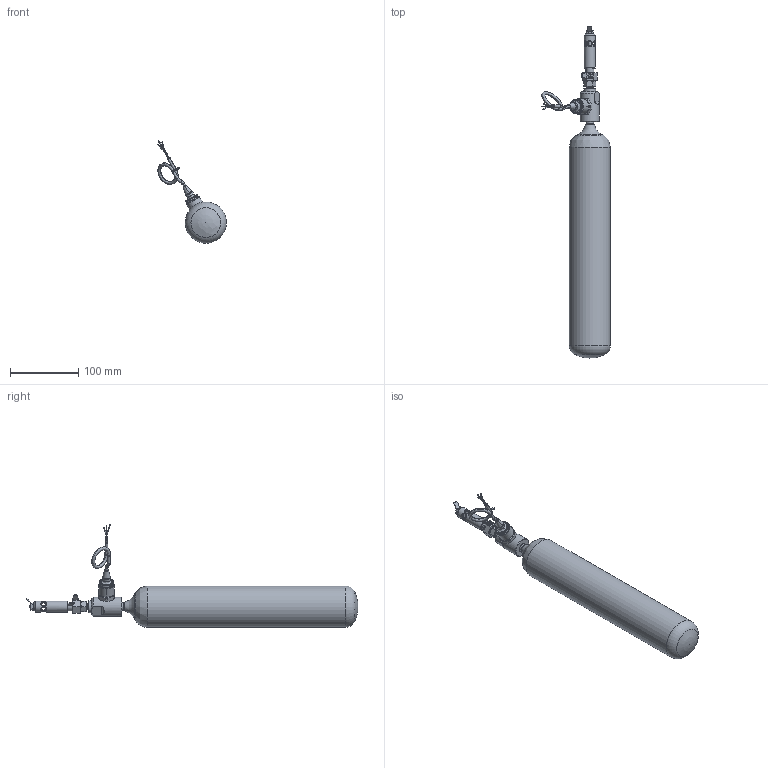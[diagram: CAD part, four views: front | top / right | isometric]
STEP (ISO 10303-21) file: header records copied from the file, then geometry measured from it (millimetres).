
FILE_DESCRIPTION(/* description */ (''),/* implementation_level */ '2;1');
FILE_NAME(/* name */ '40-057-20-31-15 - S-AMFE & R-AMFE - cylinder size 5 and pressure sensor (cable).stp',/* time_stamp */ '2025-03-26T16:19:58+01:00',/* author */ ('ASc'),/* organization */ (''),/* preprocessor_version */ 'ST-DEVELOPER v19.2',/* originating_system */ 'Autodesk Inventor 2023',/* authorisation */ '');
FILE_SCHEMA (('AUTOMOTIVE_DESIGN { 1 0 10303 214 3 1 1 }'));
Length unit declared in the file: millimetre
Products named in the file (1): 40-057-20-31-15_Vereinfachen_1
Bounding box: 100.75 x 485.41 x 149.84 mm (x, y, z)
Volume: 969098.3 mm3; surface area: 82041.8 mm2
Topology: 1 solids, 1 shells, 286 faces, 790 edges, 513 vertices
Faces by surface type: bspline 116, plane 106, cylinder 31, cone 29, torus 4
Full cylindrical faces by diameter (mm): 2.9 x1, 5.7 x2, 6.5 x6, 9.4 x1, 11 x1, 11.9 x1, 12 x1, 12.5 x1, 15 x1, 16 x1, 17.5 x1, 28 x1, 60.3 x1
Entity records: 17756 total; most frequent: CARTESIAN_POINT 10788, ORIENTED_EDGE 1576, DIRECTION 1010, EDGE_CURVE 788, VERTEX_POINT 513, AXIS2_PLACEMENT_3D 375, EDGE_LOOP 317, B_SPLINE_CURVE_WITH_KNOTS 294
